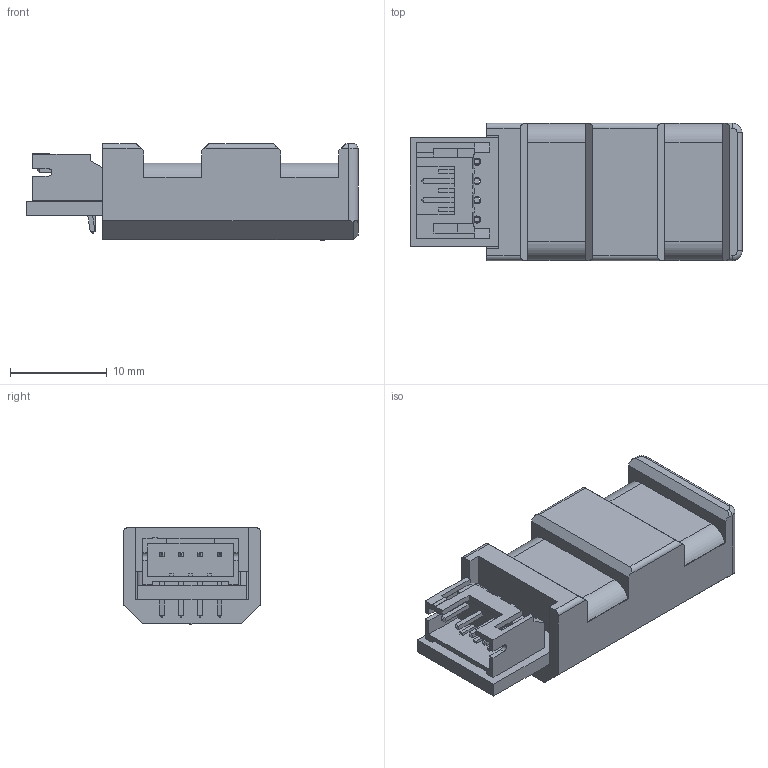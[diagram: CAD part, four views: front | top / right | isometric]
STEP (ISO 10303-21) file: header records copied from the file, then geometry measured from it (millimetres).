
FILE_DESCRIPTION(/* description */ ('KiCad electronic assembly'),/* implementation_level */ '2;1');
FILE_NAME(/* name */ 'Alshain-Pica-sensor-head.step',/* time_stamp */ '2026-06-10T17:17:11+03:00',/* author */ (''),/* organization */ (''),/* preprocessor_version */ 'ST-DEVELOPER v20.1',/* originating_system */ 'Autodesk Translation Framework v15.8.0.0',/* authorisation */ '');
FILE_SCHEMA (('AUTOMOTIVE_DESIGN { 1 0 10303 214 3 1 1 }'));
Length unit declared in the file: millimetre
Products named in the file (7): pica-sensor 1; JST_PH_S4B-PH-K_1x04_P2.00mm_Horizontal; LED_1210_3225Metric; pica-sensor_PCB; VEMD2523SLX01; kotelo; kotelo-kansi
Assembly tree (6 placements, depth 3):
  pica-sensor 1
    JST_PH_S4B-PH-K_1x04_P2.00mm_Horizontal
    LED_1210_3225Metric
    pica-sensor_PCB
    VEMD2523SLX01
    kotelo
      kotelo-kansi
Bounding box: 34.39 x 14.23 x 10 mm (x, y, z)
Volume: 2829.5 mm3; surface area: 3732.9 mm2
Topology: 7 solids, 7 shells, 409 faces, 1078 edges, 694 vertices
Faces by surface type: plane 331, cylinder 67, cone 8, bspline 2, sphere 1
Full cylindrical faces by diameter (mm): 0.75 x4, 0.9 x2, 1.152 x2, 1.8 x1, 2 x4, 5 x1
Entity records: 12934 total; most frequent: CARTESIAN_POINT 2210, ORIENTED_EDGE 2156, DIRECTION 2072, EDGE_CURVE 1078, LINE 924, VECTOR 924, VERTEX_POINT 694, AXIS2_PLACEMENT_3D 574
